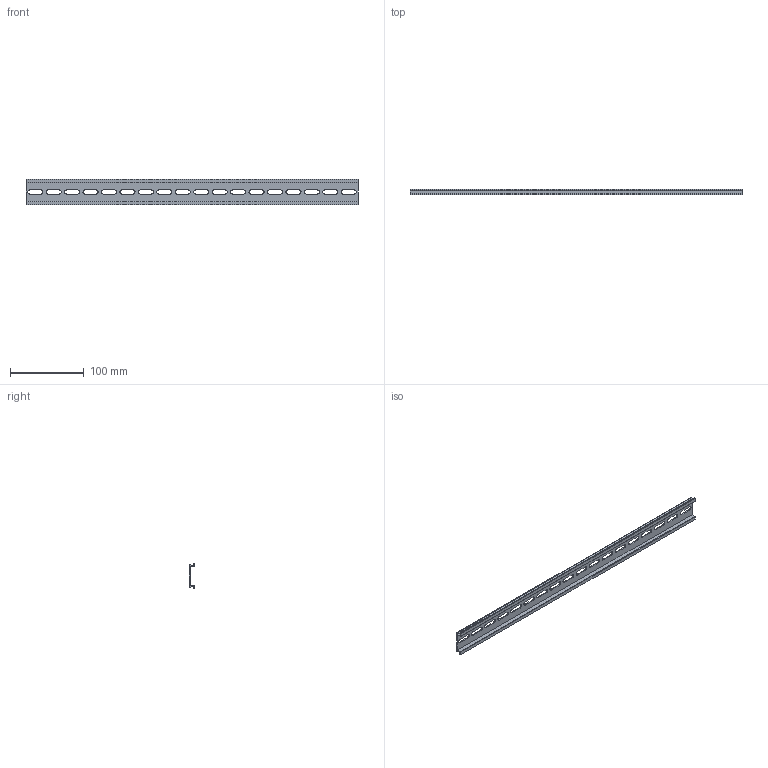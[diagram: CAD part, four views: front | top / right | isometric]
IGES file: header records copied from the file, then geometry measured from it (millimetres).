
Start section: ------------------------------------------------------------------------
Global section: file name: D:\ICADMX\tmp\trans3d_spg\CVICAD02.21224.DIN-RAIL450_7880.igs; native system: spGate; preprocessor: ver12.6.6; author: Unknown; organization: Unknown; date: 200901.142053; units: millimetre
Bounding box: 450 x 7.5 x 35 mm (x, y, z)
Volume: 31769.3 mm3; surface area: 42468.6 mm2
Topology: 1 solids, 1 shells, 92 faces, 270 edges, 180 vertices
Faces by surface type: bspline 92
